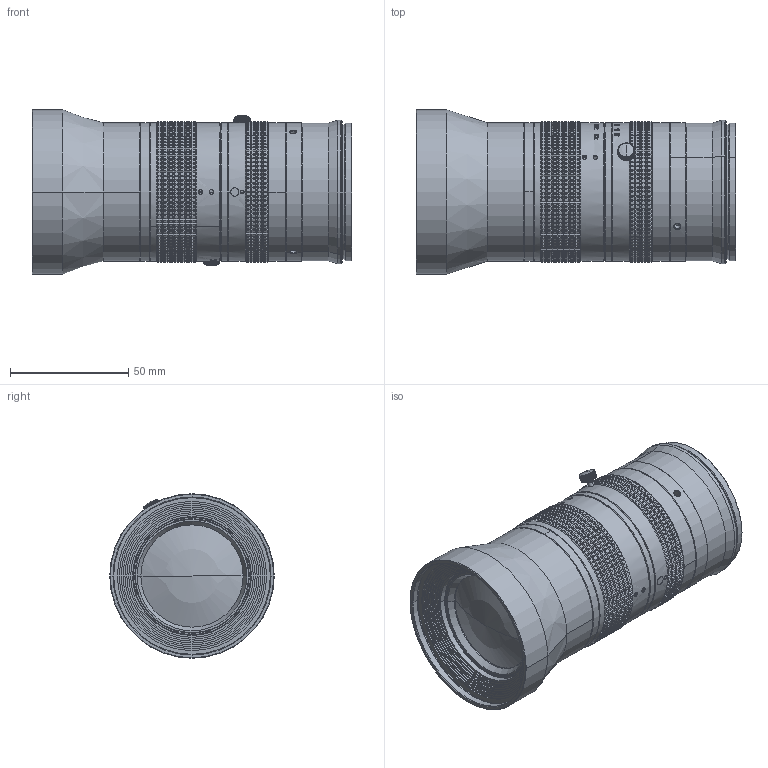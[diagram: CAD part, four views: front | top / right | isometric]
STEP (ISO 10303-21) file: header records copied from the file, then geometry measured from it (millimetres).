
FILE_DESCRIPTION((''),'2;1');
FILE_NAME('200_ASM','2025-06-26T',('Administrator'),(''),'PRO/ENGINEER BY PARAMETRIC TECHNOLOGY CORPORATION, 2010020','PRO/ENGINEER BY PARAMETRIC TECHNOLOGY CORPORATION, 2010020','');
FILE_SCHEMA(('AUTOMOTIVE_DESIGN_CC2 { 1 2 10303 214 -1 1 5 2 }'));
Length unit declared in the file: millimetre
Products named in the file (137): 503_AF0; 504_AF2; 504-COPY_AF0; 501_AF0; 309_AF0; 308_AF0; 514_AF0; 307_AF0; 306_AF0; 513_AF0; 305_AF0; 512_AF0; 303_AF0; 304_AF0; 302_AF0; 301_AF0; 511_AF0; 201_AF0_ASM; 502_AF0; MB5MP-02-04________AF0; MB5MP-02-04________AF1; MA170-02-02_AF0; MA170-01-01_AF0_ASM; MB5MP-02-04________AF2; MB5MP-02-04________AF3; MA170-02-02_AF1; MA170-01-01_AF1_ASM; MA154-02-02_AF0; MB5MP-02-04________AF4; MB5MP-02-04________AF5; MA170-02-02_AF2; MA170-01-01_AF2_ASM; MA154-02-01_AF0; MB5MP-02-04________AF6; MB5MP-02-04________AF7; MA170-02-02_AF3; MA170-01-01_AF3_ASM; MA170-02-04_AF0; MB5MP-02-04________AF8; MB5MP-02-04________AF9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
Assembly tree (136 placements, depth 6):
  200_ASM
    503_AF0
    504_AF2
    504-COPY_AF0
    201_AF0_ASM
      501_AF0
      309_AF0
      308_AF0
      514_AF0
      307_AF0
      306_AF0
      513_AF0
      305_AF0
      512_AF0
      303_AF0
      304_AF0
      302_AF0
      301_AF0
      511_AF0
    202_AF0_ASM
      502_AF0
      MA154-00-01_AF0_ASM
        ASM0002_AF0_ASM
          MA170-01-01_AF0_ASM
            MB5MP-02-04________AF0
            MB5MP-02-04________AF1
            MA170-02-02_AF0
          MA170-01-01_AF1_ASM
            MB5MP-02-04________AF2
            MB5MP-02-04________AF3
            MA170-02-02_AF1
          MA154-02-02_AF0
          MA170-01-01_AF2_ASM
            MB5MP-02-04________AF4
            MB5MP-02-04________AF5
            MA170-02-02_AF2
          MA154-02-01_AF0
          MA170-01-01_AF3_ASM
            MB5MP-02-04________AF6
            MB5MP-02-04________AF7
            MA170-02-02_AF3
          MA170-02-04_AF0
          MA170-01-01_AF4_ASM
            MB5MP-02-04________AF8
            MB5MP-02-04________AF9
            MA170-02-02_AF4
          MA170-01-01_AF5_ASM
            MB5MP-02-04________AF10
            MB5MP-02-04________AF11
            MA170-02-02_AF5
          MA170-01-01_AF6_ASM
            MB5MP-02-04________AF12
            MB5MP-02-04________AF13
            MA170-02-02_AF6
          MA170-01-01_AF7_ASM
            MB5MP-02-04________AF14
            MB5MP-02-04________AF15
            MA170-02-02_AF7
          MA170-01-01_AF8_ASM
            MB5MP-02-04________AF16
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Bounding box: 135.08 x 69.42 x 69.42 mm (x, y, z)
Volume: 83312.2 mm3; surface area: 84520.1 mm2
Topology: 23 solids, 23 shells, 7386 faces, 16261 edges, 9011 vertices
Faces by surface type: plane 2710, cone 2581, cylinder 1494, extrusion 507, bspline 86, sphere 8
Entity records: 223949 total; most frequent: CARTESIAN_POINT 63520, ORIENTED_EDGE 32490, DIRECTION 29811, EDGE_CURVE 16245, AXIS2_PLACEMENT_3D 12078, VERTEX_POINT 9010, EDGE_LOOP 7545, FACE_OUTER_BOUND 7386
